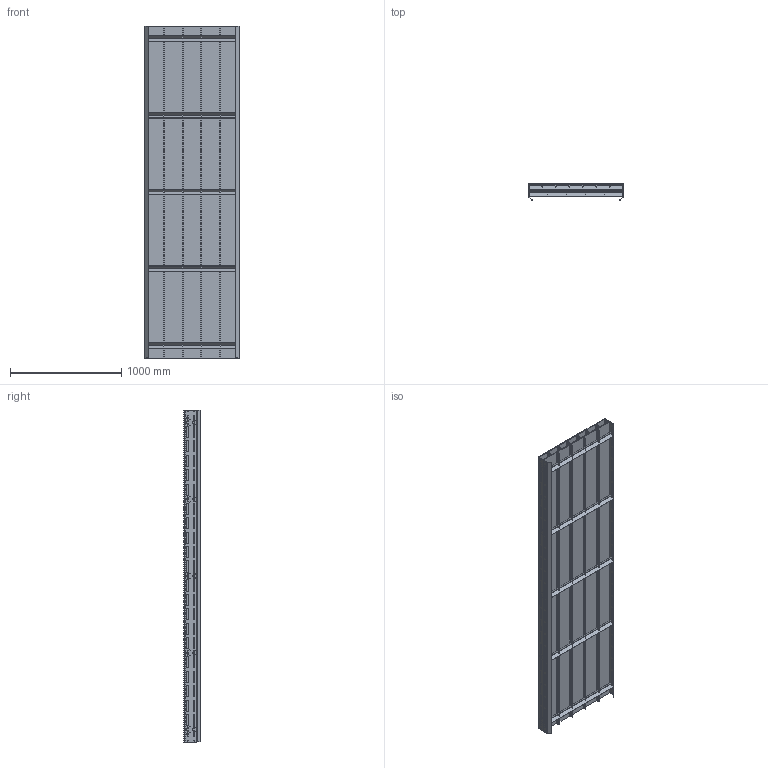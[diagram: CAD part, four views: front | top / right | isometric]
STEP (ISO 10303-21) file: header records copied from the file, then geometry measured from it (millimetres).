
FILE_DESCRIPTION (( 'STEP AP214' ), '1' );
FILE_NAME ('03.102S850.N FS-850-MTS2-100.INOX straight section L=2990.STEP', '2025-02-11T10:31:46', ( '' ), ( '' ), 'SwSTEP 2.0', 'SolidWorks 2024', '' );
FILE_SCHEMA (( 'AUTOMOTIVE_DESIGN' ));
Length unit declared in the file: millimetre
Products named in the file (1): 03.102S850.N FS-850-MTS2-100.INOX straight section L=2990
Bounding box: 853.5 x 145.63 x 2990 mm (x, y, z)
Volume: 53434532 mm3; surface area: 17269198.6 mm2
Topology: 26 solids, 26 shells, 1636 faces, 4752 edges, 3168 vertices
Faces by surface type: cylinder 930, plane 706
Entity records: 56256 total; most frequent: DIRECTION 9878, CARTESIAN_POINT 9581, ORIENTED_EDGE 9504, EDGE_CURVE 4752, AXIS2_PLACEMENT_3D 3497, VERTEX_POINT 3168, VECTOR 2884, LINE 2884
